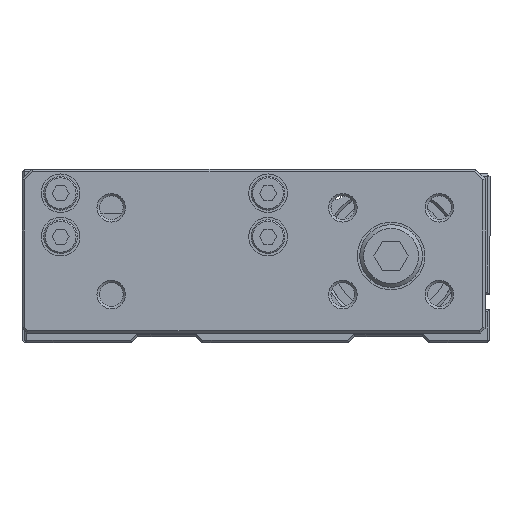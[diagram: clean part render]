
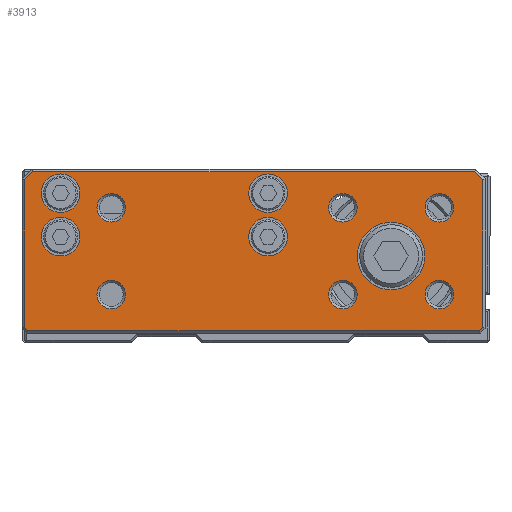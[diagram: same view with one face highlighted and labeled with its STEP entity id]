
A CAD part, front view. The second image highlights one B-rep face of the part: STEP entity #3913.
In plain terms, the highlighted planar face has unit normal (0, -1, 0).
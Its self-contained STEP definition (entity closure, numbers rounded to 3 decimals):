
#3717=CARTESIAN_POINT('',(-7.042,-15.8,10.0));
#3718=VERTEX_POINT('',#3717);
#3719=CARTESIAN_POINT('',(-10.,-15.8,10.0));
#3720=DIRECTION('',(0.0,-1.0,0.0));
#3721=DIRECTION('',(-1.0,0.0,0.0));
#3722=AXIS2_PLACEMENT_3D('',#3719,#3720,#3721);
#3723=CIRCLE('',#3722,2.959);
#3724=EDGE_CURVE('',#3718,#3718,#3723,.T.);
#3729=CARTESIAN_POINT('',(-76.5,-15.8,18.0));
#3730=DIRECTION('',(0.0,-1.0,0.0));
#3731=DIRECTION('',(0.0,0.0,-1.0));
#3732=AXIS2_PLACEMENT_3D('',#3729,#3730,#3731);
#3733=PLANE('',#3732);
#3734=CARTESIAN_POINT('',(19.,-15.8,15.793));
#3735=VERTEX_POINT('',#3734);
#3736=CARTESIAN_POINT('',(19.,-15.8,-14.793));
#3737=VERTEX_POINT('',#3736);
#3738=CARTESIAN_POINT('',(19.,-15.8,15.793));
#3739=DIRECTION('',(0.0,0.0,-1.0));
#3740=VECTOR('',#3739,30.586);
#3741=LINE('',#3738,#3740);
#3742=EDGE_CURVE('',#3735,#3737,#3741,.T.);
#3743=ORIENTED_EDGE('',*,*,#3742,.F.);
#3744=CARTESIAN_POINT('',(17.293,-15.8,17.5));
#3745=VERTEX_POINT('',#3744);
#3746=CARTESIAN_POINT('',(17.293,-15.8,17.5));
#3747=DIRECTION('',(0.707,0.,-0.707));
#3748=VECTOR('',#3747,2.414);
#3749=LINE('',#3746,#3748);
#3750=EDGE_CURVE('',#3745,#3735,#3749,.T.);
#3751=ORIENTED_EDGE('',*,*,#3750,.F.);
#3752=CARTESIAN_POINT('',(-74.293,-15.8,17.5));
#3753=VERTEX_POINT('',#3752);
#3754=CARTESIAN_POINT('',(-74.293,-15.8,17.5));
#3755=DIRECTION('',(1.0,0.0,0.0));
#3756=VECTOR('',#3755,91.586);
#3757=LINE('',#3754,#3756);
#3758=EDGE_CURVE('',#3753,#3745,#3757,.T.);
#3759=ORIENTED_EDGE('',*,*,#3758,.F.);
#3760=CARTESIAN_POINT('',(-76.,-15.8,15.793));
#3761=VERTEX_POINT('',#3760);
#3762=CARTESIAN_POINT('',(-76.,-15.8,15.793));
#3763=DIRECTION('',(0.707,0.,0.707));
#3764=VECTOR('',#3763,2.414);
#3765=LINE('',#3762,#3764);
#3766=EDGE_CURVE('',#3761,#3753,#3765,.T.);
#3767=ORIENTED_EDGE('',*,*,#3766,.F.);
#3768=CARTESIAN_POINT('',(-76.,-15.8,-14.793));
#3769=VERTEX_POINT('',#3768);
#3770=CARTESIAN_POINT('',(-76.,-15.8,-14.793));
#3771=DIRECTION('',(0.0,0.0,1.0));
#3772=VECTOR('',#3771,30.586);
#3773=LINE('',#3770,#3772);
#3774=EDGE_CURVE('',#3769,#3761,#3773,.T.);
#3775=ORIENTED_EDGE('',*,*,#3774,.F.);
#3776=CARTESIAN_POINT('',(-75.293,-15.8,-15.5));
#3777=VERTEX_POINT('',#3776);
#3778=CARTESIAN_POINT('',(-75.293,-15.8,-15.5));
#3779=DIRECTION('',(-0.707,0.,0.707));
#3780=VECTOR('',#3779,1.);
#3781=LINE('',#3778,#3780);
#3782=EDGE_CURVE('',#3777,#3769,#3781,.T.);
#3783=ORIENTED_EDGE('',*,*,#3782,.F.);
#3784=CARTESIAN_POINT('',(18.293,-15.8,-15.5));
#3785=VERTEX_POINT('',#3784);
#3786=CARTESIAN_POINT('',(18.293,-15.8,-15.5));
#3787=DIRECTION('',(-1.0,0.0,0.0));
#3788=VECTOR('',#3787,93.586);
#3789=LINE('',#3786,#3788);
#3790=EDGE_CURVE('',#3785,#3777,#3789,.T.);
#3791=ORIENTED_EDGE('',*,*,#3790,.F.);
#3792=CARTESIAN_POINT('',(19.,-15.8,-14.793));
#3793=DIRECTION('',(-0.707,0.0,-0.707));
#3794=VECTOR('',#3793,1.);
#3795=LINE('',#3792,#3794);
#3796=EDGE_CURVE('',#3737,#3785,#3795,.T.);
#3797=ORIENTED_EDGE('',*,*,#3796,.F.);
#3798=EDGE_LOOP('',(#3743,#3751,#3759,#3767,#3775,#3783,#3791,#3797));
#3799=FACE_OUTER_BOUND('',#3798,.T.);
#3800=CARTESIAN_POINT('',(-7.042,-15.8,-8.0));
#3801=VERTEX_POINT('',#3800);
#3802=CARTESIAN_POINT('',(-10.,-15.8,-8.0));
#3803=DIRECTION('',(0.0,-1.0,0.0));
#3804=DIRECTION('',(-1.0,0.0,0.0));
#3805=AXIS2_PLACEMENT_3D('',#3802,#3803,#3804);
#3806=CIRCLE('',#3805,2.959);
#3807=EDGE_CURVE('',#3801,#3801,#3806,.T.);
#3808=ORIENTED_EDGE('',*,*,#3807,.F.);
#3809=EDGE_LOOP('',(#3808));
#3810=FACE_BOUND('',#3809,.T.);
#3811=CARTESIAN_POINT('',(12.959,-15.8,-8.));
#3812=VERTEX_POINT('',#3811);
#3813=CARTESIAN_POINT('',(10.0,-15.8,-8.));
#3814=DIRECTION('',(0.0,-1.0,0.0));
#3815=DIRECTION('',(-1.0,0.0,0.0));
#3816=AXIS2_PLACEMENT_3D('',#3813,#3814,#3815);
#3817=CIRCLE('',#3816,2.959);
#3818=EDGE_CURVE('',#3812,#3812,#3817,.T.);
#3819=ORIENTED_EDGE('',*,*,#3818,.F.);
#3820=EDGE_LOOP('',(#3819));
#3821=FACE_BOUND('',#3820,.T.);
#3822=CARTESIAN_POINT('',(12.959,-15.8,10.));
#3823=VERTEX_POINT('',#3822);
#3824=CARTESIAN_POINT('',(10.0,-15.8,10.));
#3825=DIRECTION('',(0.0,-1.0,0.0));
#3826=DIRECTION('',(-1.0,0.0,0.0));
#3827=AXIS2_PLACEMENT_3D('',#3824,#3825,#3826);
#3828=CIRCLE('',#3827,2.959);
#3829=EDGE_CURVE('',#3823,#3823,#3828,.T.);
#3830=ORIENTED_EDGE('',*,*,#3829,.F.);
#3831=EDGE_LOOP('',(#3830));
#3832=FACE_BOUND('',#3831,.T.);
#3833=CARTESIAN_POINT('',(7.,-15.8,0.0));
#3834=VERTEX_POINT('',#3833);
#3835=CARTESIAN_POINT('',(0.,-15.8,0.0));
#3836=DIRECTION('',(0.0,1.0,0.0));
#3837=DIRECTION('',(1.0,0.0,0.0));
#3838=AXIS2_PLACEMENT_3D('',#3835,#3836,#3837);
#3839=CIRCLE('',#3838,7.);
#3840=EDGE_CURVE('',#3834,#3834,#3839,.T.);
#3841=ORIENTED_EDGE('',*,*,#3840,.T.);
#3842=EDGE_LOOP('',(#3841));
#3843=FACE_BOUND('',#3842,.T.);
#3844=CARTESIAN_POINT('',(-64.5,-15.8,13.));
#3845=VERTEX_POINT('',#3844);
#3846=CARTESIAN_POINT('',(-68.5,-15.8,13.));
#3847=DIRECTION('',(0.0,1.0,0.0));
#3848=DIRECTION('',(1.0,0.0,0.0));
#3849=AXIS2_PLACEMENT_3D('',#3846,#3847,#3848);
#3850=CIRCLE('',#3849,4.0);
#3851=EDGE_CURVE('',#3845,#3845,#3850,.T.);
#3852=ORIENTED_EDGE('',*,*,#3851,.T.);
#3853=EDGE_LOOP('',(#3852));
#3854=FACE_BOUND('',#3853,.T.);
#3855=CARTESIAN_POINT('',(-64.5,-15.8,4.));
#3856=VERTEX_POINT('',#3855);
#3857=CARTESIAN_POINT('',(-68.5,-15.8,4.));
#3858=DIRECTION('',(0.0,1.0,0.0));
#3859=DIRECTION('',(1.0,0.0,0.0));
#3860=AXIS2_PLACEMENT_3D('',#3857,#3858,#3859);
#3861=CIRCLE('',#3860,4.0);
#3862=EDGE_CURVE('',#3856,#3856,#3861,.T.);
#3863=ORIENTED_EDGE('',*,*,#3862,.T.);
#3864=EDGE_LOOP('',(#3863));
#3865=FACE_BOUND('',#3864,.T.);
#3866=CARTESIAN_POINT('',(-21.5,-15.8,13.));
#3867=VERTEX_POINT('',#3866);
#3868=CARTESIAN_POINT('',(-25.5,-15.8,13.));
#3869=DIRECTION('',(0.0,1.0,0.0));
#3870=DIRECTION('',(1.0,0.0,0.0));
#3871=AXIS2_PLACEMENT_3D('',#3868,#3869,#3870);
#3872=CIRCLE('',#3871,4.0);
#3873=EDGE_CURVE('',#3867,#3867,#3872,.T.);
#3874=ORIENTED_EDGE('',*,*,#3873,.T.);
#3875=EDGE_LOOP('',(#3874));
#3876=FACE_BOUND('',#3875,.T.);
#3877=CARTESIAN_POINT('',(-21.5,-15.8,4.));
#3878=VERTEX_POINT('',#3877);
#3879=CARTESIAN_POINT('',(-25.5,-15.8,4.));
#3880=DIRECTION('',(0.0,1.0,0.0));
#3881=DIRECTION('',(1.0,0.0,0.0));
#3882=AXIS2_PLACEMENT_3D('',#3879,#3880,#3881);
#3883=CIRCLE('',#3882,4.0);
#3884=EDGE_CURVE('',#3878,#3878,#3883,.T.);
#3885=ORIENTED_EDGE('',*,*,#3884,.T.);
#3886=EDGE_LOOP('',(#3885));
#3887=FACE_BOUND('',#3886,.T.);
#3888=CARTESIAN_POINT('',(-55.042,-15.8,-8.));
#3889=VERTEX_POINT('',#3888);
#3890=CARTESIAN_POINT('',(-58.,-15.8,-8.));
#3891=DIRECTION('',(0.0,-1.0,0.0));
#3892=DIRECTION('',(-1.0,0.0,0.0));
#3893=AXIS2_PLACEMENT_3D('',#3890,#3891,#3892);
#3894=CIRCLE('',#3893,2.958);
#3895=EDGE_CURVE('',#3889,#3889,#3894,.T.);
#3896=ORIENTED_EDGE('',*,*,#3895,.F.);
#3897=EDGE_LOOP('',(#3896));
#3898=FACE_BOUND('',#3897,.T.);
#3899=CARTESIAN_POINT('',(-55.042,-15.8,10.));
#3900=VERTEX_POINT('',#3899);
#3901=CARTESIAN_POINT('',(-58.,-15.8,10.));
#3902=DIRECTION('',(0.0,-1.0,0.0));
#3903=DIRECTION('',(-1.0,0.0,0.0));
#3904=AXIS2_PLACEMENT_3D('',#3901,#3902,#3903);
#3905=CIRCLE('',#3904,2.958);
#3906=EDGE_CURVE('',#3900,#3900,#3905,.T.);
#3907=ORIENTED_EDGE('',*,*,#3906,.F.);
#3908=EDGE_LOOP('',(#3907));
#3909=FACE_BOUND('',#3908,.T.);
#3910=ORIENTED_EDGE('',*,*,#3724,.F.);
#3911=EDGE_LOOP('',(#3910));
#3912=FACE_BOUND('',#3911,.T.);
#3913=ADVANCED_FACE('',(#3799,#3810,#3821,#3832,#3843,#3854,#3865,#3876,#3887,#3898,#3909,#3912),#3733,.T.);
